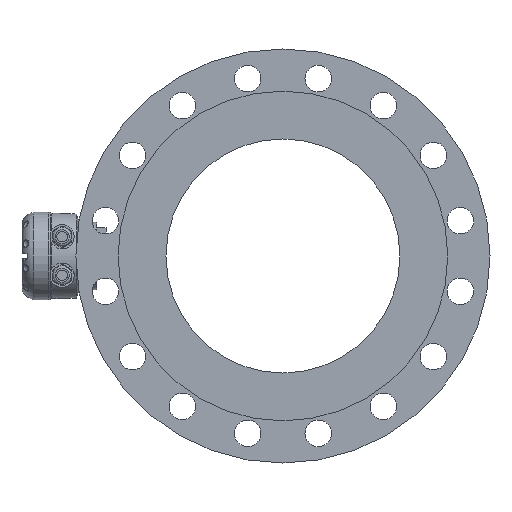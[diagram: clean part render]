
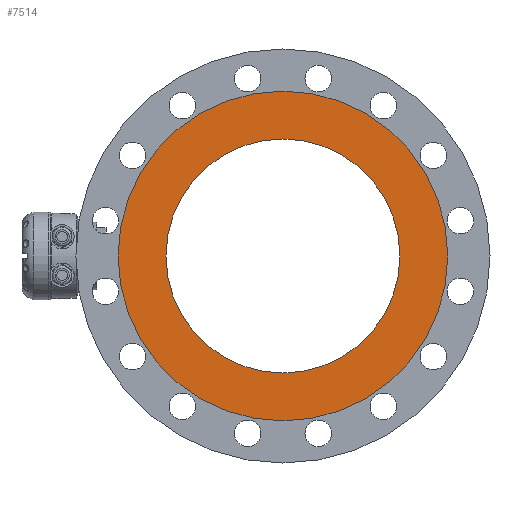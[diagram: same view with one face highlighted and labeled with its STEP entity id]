
A CAD part, left-side view. The second image highlights one B-rep face of the part: STEP entity #7514.
In plain terms, the highlighted planar face has unit normal (-1, 0, 0).
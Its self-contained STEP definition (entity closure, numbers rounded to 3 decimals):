
#350 = VERTEX_POINT ( 'NONE', #351 ) ;
#351 = CARTESIAN_POINT ( 'NONE',  ( -244.805, -225.017, -156.043 ) ) ;
#390 = VERTEX_POINT ( 'NONE', #391 ) ;
#391 = CARTESIAN_POINT ( 'NONE',  ( -244.805, -225.017, -215.543 ) ) ;
#1752 = EDGE_CURVE ( 'NONE', #350, #350, #4202, .T. ) ;
#1774 = EDGE_CURVE ( 'NONE', #390, #390, #4226, .T. ) ;
#2342 = AXIS2_PLACEMENT_3D ( 'NONE', #9778, #9785, #9786 ) ;
#2363 = AXIS2_PLACEMENT_3D ( 'NONE', #10285, #10295, #10296 ) ;
#2710 = AXIS2_PLACEMENT_3D ( 'NONE', #11676, #11736, #11737 ) ;
#3790 = ORIENTED_EDGE ( 'NONE', *, *, #1752, .T. ) ;
#3791 = ORIENTED_EDGE ( 'NONE', *, *, #1774, .F. ) ;
#4202 = CIRCLE ( 'NONE', #2342, 145.5 ) ;
#4226 = CIRCLE ( 'NONE', #2363, 205. ) ;
#5128 = FACE_BOUND ( 'NONE', #12157, .T. ) ;
#5129 = FACE_OUTER_BOUND ( 'NONE', #12231, .T. ) ;
#7514 = ADVANCED_FACE ( 'NONE', ( #5129, #5128 ), #11729, .T. ) ;
#9778 = CARTESIAN_POINT ( 'NONE',  ( -244.805, -225.017, -10.543 ) ) ;
#9785 = DIRECTION ( 'NONE',  ( 1., 0., 0. ) ) ;
#9786 = DIRECTION ( 'NONE',  ( 0., 0., -1. ) ) ;
#10285 = CARTESIAN_POINT ( 'NONE',  ( -244.805, -225.017, -10.543 ) ) ;
#10295 = DIRECTION ( 'NONE',  ( 1., 0., 0. ) ) ;
#10296 = DIRECTION ( 'NONE',  ( 0., 0., -1. ) ) ;
#11676 = CARTESIAN_POINT ( 'NONE',  ( -244.805, -225.017, -156.043 ) ) ;
#11729 = PLANE ( 'NONE',  #2710 ) ;
#11736 = DIRECTION ( 'NONE',  ( -1., 0., 0. ) ) ;
#11737 = DIRECTION ( 'NONE',  ( 0., 0., 1. ) ) ;
#12157 = EDGE_LOOP ( 'NONE', ( #3790 ) ) ;
#12231 = EDGE_LOOP ( 'NONE', ( #3791 ) ) ;
